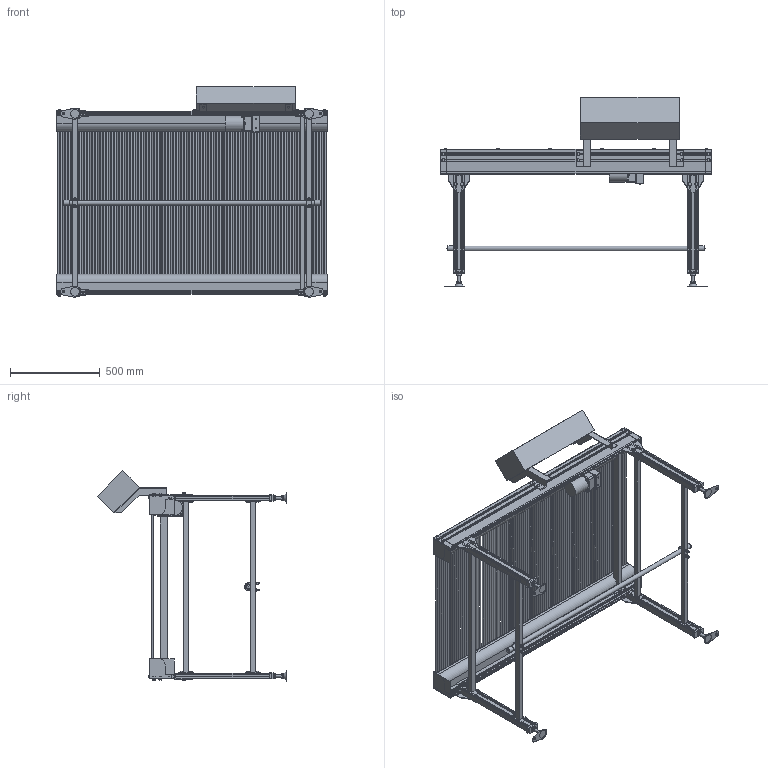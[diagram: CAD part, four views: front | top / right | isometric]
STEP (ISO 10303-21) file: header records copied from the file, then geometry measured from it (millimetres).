
FILE_DESCRIPTION( (''), '2;1');
FILE_NAME ('GPA10-M-304-800-150-IVH-7.5.stp','2025-02-18T16:07:54',(''),(''),'spGate 20.6.2 (****-****-****-****)','','');
FILE_SCHEMA (('AUTOMOTIVE_DESIGN'));
Length unit declared in the file: millimetre
Products named in the file (134): GPA10-M-304-800-150-IVH-7.5; TEMP_X_T-prt0; TEMP_X_T-prt1; TEMP_X_T-prt2; TEMP_X_T-prt3; TEMP_X_T-prt4; TEMP_X_T-prt5; TEMP_X_T-prt6; TEMP_X_T-prt7; TEMP_X_T-prt8; TEMP_X_T-prt9; TEMP_X_T-prt10; TEMP_X_T-prt11; TEMP_X_T-prt12; TEMP_X_T-prt13; TEMP_X_T-prt14; TEMP_X_T-prt15; TEMP_X_T-prt16; TEMP_X_T-prt17; TEMP_X_T-prt18; TEMP_X_T-prt19; TEMP_X_T-prt20; TEMP_X_T-prt21; TEMP_X_T-prt22; TEMP_X_T-prt23; TEMP_X_T-prt24; TEMP_X_T-prt25; TEMP_X_T-prt26; TEMP_X_T-prt27; TEMP_X_T-prt28; TEMP_X_T-prt29; TEMP_X_T-prt30; TEMP_X_T-prt31; TEMP_X_T-prt32; TEMP_X_T-prt33; TEMP_X_T-prt34; TEMP_X_T-prt35; TEMP_X_T-prt36; TEMP_X_T-prt37; TEMP_X_T-prt38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
Assembly tree (133 placements, depth 2):
  GPA10-M-304-800-150-IVH-7.5
    TEMP_X_T-prt0
    TEMP_X_T-prt1
    TEMP_X_T-prt2
    TEMP_X_T-prt3
    TEMP_X_T-prt4
    TEMP_X_T-prt5
    TEMP_X_T-prt6
    TEMP_X_T-prt7
    TEMP_X_T-prt8
    TEMP_X_T-prt9
    TEMP_X_T-prt10
    TEMP_X_T-prt11
    TEMP_X_T-prt12
    TEMP_X_T-prt13
    TEMP_X_T-prt14
    TEMP_X_T-prt15
    TEMP_X_T-prt16
    TEMP_X_T-prt17
    TEMP_X_T-prt18
    TEMP_X_T-prt19
    TEMP_X_T-prt20
    TEMP_X_T-prt21
    TEMP_X_T-prt22
    TEMP_X_T-prt23
    TEMP_X_T-prt24
    TEMP_X_T-prt25
    TEMP_X_T-prt26
    TEMP_X_T-prt27
    TEMP_X_T-prt28
    TEMP_X_T-prt29
    TEMP_X_T-prt30
    TEMP_X_T-prt31
    TEMP_X_T-prt32
    TEMP_X_T-prt33
    TEMP_X_T-prt34
    TEMP_X_T-prt35
    TEMP_X_T-prt36
    TEMP_X_T-prt37
    TEMP_X_T-prt38
    TEMP_X_T-prt39
    TEMP_X_T-prt40
    TEMP_X_T-prt41
    TEMP_X_T-prt42
    TEMP_X_T-prt43
    TEMP_X_T-prt44
    TEMP_X_T-prt45
    TEMP_X_T-prt46
    TEMP_X_T-prt47
    TEMP_X_T-prt48
    TEMP_X_T-prt49
    TEMP_X_T-prt50
    TEMP_X_T-prt51
    TEMP_X_T-prt52
    TEMP_X_T-prt53
    TEMP_X_T-prt54
    TEMP_X_T-prt55
    TEMP_X_T-prt56
    TEMP_X_T-prt57
    TEMP_X_T-prt58
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Bounding box: 1505 x 1052.93 x 1170.83 mm (x, y, z)
Volume: 60129116.5 mm3; surface area: 7456768.8 mm2
Topology: 133 solids, 133 shells, 1729 faces, 4156 edges, 2809 vertices
Faces by surface type: plane 1411, cylinder 266, bspline 52
Full cylindrical faces by diameter (mm): 6 x3, 6.5 x8, 7 x4, 8 x8, 9 x1, 10 x103, 12 x1, 12.2 x4, 12.5 x8, 13 x4, 14 x12, 15.4 x36, 16 x8, 17 x20, 25.4 x1, 28.4 x2, 30 x4, 36 x2, 83 x1, 87.5 x1
Entity records: 90587 total; most frequent: CARTESIAN_POINT 11673, DIRECTION 8684, ORIENTED_EDGE 8300, COLOUR_RGB 6012, PRESENTATION_STYLE_ASSIGNMENT 6012, STYLED_ITEM 6012, EDGE_CURVE 4150, DRAUGHTING_PRE_DEFINED_CURVE_FONT 4150
